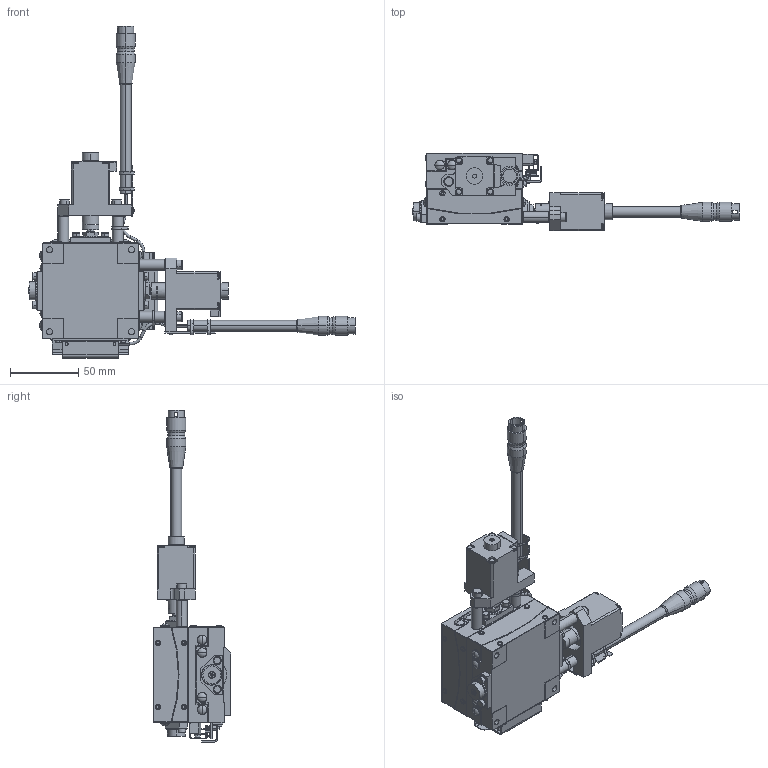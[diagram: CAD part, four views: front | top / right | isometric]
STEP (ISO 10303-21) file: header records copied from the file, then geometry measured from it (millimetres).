
FILE_DESCRIPTION (( 'STEP AP214' ), '1' );
FILE_NAME ('KAB07096AT-LC.STEP', '2024-04-17T08:21:04', ( '' ), ( '' ), 'SwSTEP 2.0', 'SolidWorks 2017', '' );
FILE_SCHEMA (( 'AUTOMOTIVE_DESIGN' ));
Length unit declared in the file: millimetre
Products named in the file (9): KGB07122AT-LC; KGB-BASE-07096-L; KGB-BASE-07122-L; KGB-70-T-12-L; KGB07096AT-LC; KAB07096AT-LC; KGB-70-C-L; KGB-TOP-07096-L; KGB-TOP-07122-L
Assembly tree (10 placements, depth 3):
  KAB07096AT-LC
    KGB07122AT-LC
      KGB-BASE-07122-L
      KGB-TOP-07122-L
      KGB-70-C-L
      KGB-70-T-12-L
    KGB07096AT-LC
      KGB-BASE-07096-L
      KGB-TOP-07096-L
      KGB-70-C-L
      KGB-70-T-12-L
Bounding box: 239.4 x 57 x 243.2 mm (x, y, z)
Volume: 351256.9 mm3; surface area: 124299.4 mm2
Topology: 16 solids, 89 shells, 2713 faces, 6720 edges, 4332 vertices
Faces by surface type: plane 1415, cylinder 908, cone 214, torus 100, sphere 44, bspline 32
Entity records: 73616 total; most frequent: CARTESIAN_POINT 13755, DIRECTION 12723, ORIENTED_EDGE 11794, EDGE_CURVE 5897, AXIS2_PLACEMENT_3D 4474, VERTEX_POINT 3854, VECTOR 3775, LINE 3775
